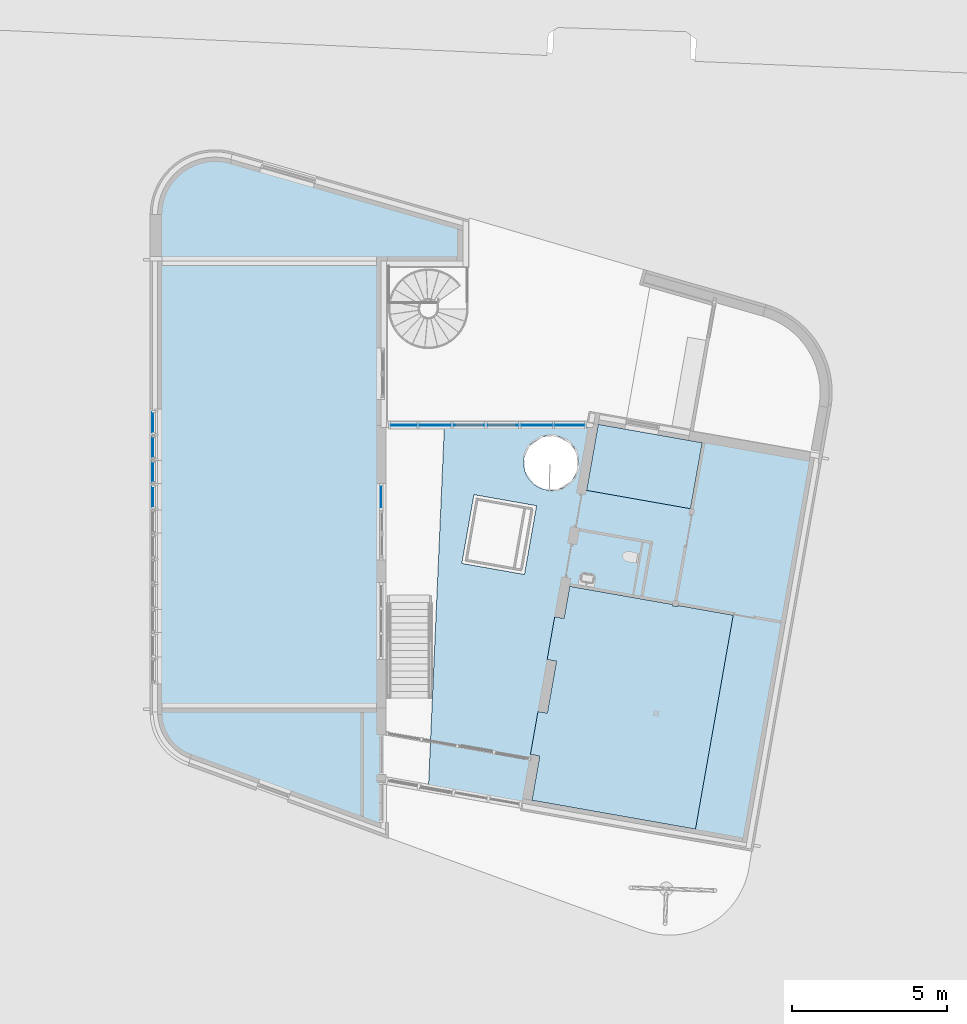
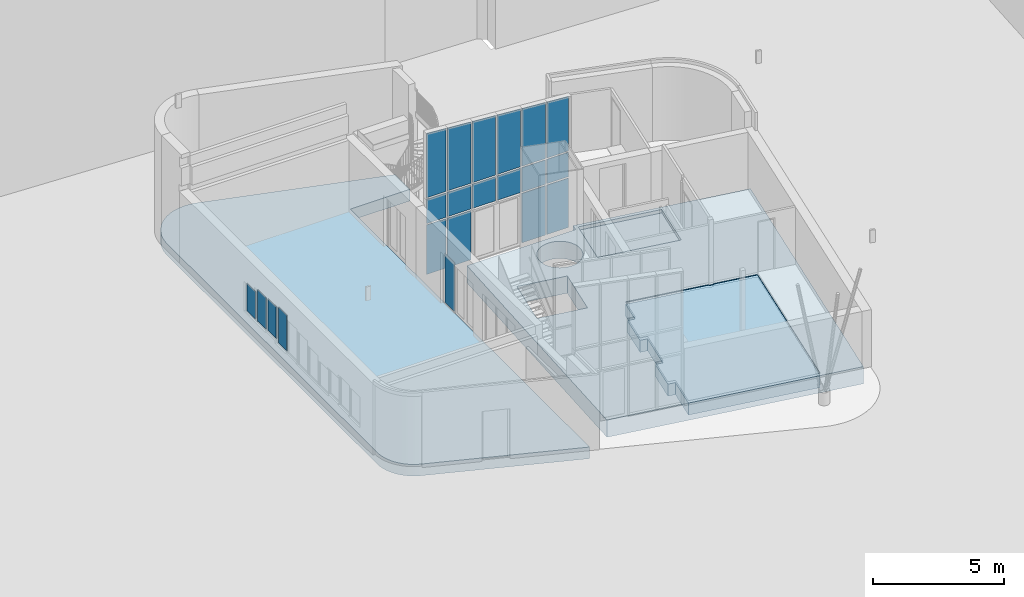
# One storey, part 10 of 21: 21 plates, 5 slabs, 6 elements without a shape of their own.
"""IFC2X3 building model written with IfcOpenShell, lengths in millimetres."""

from ifc_helpers import new_model, entity, si_unit, converted_unit, derived_unit, direction, frame, frame_2d, origin, origin_2d_with_axis, place, context, subcontext, project, spatial, polyline, circle_curve, parameter, trimmed, segment, composite_curve, rectangle, outline, extrude, source, transform, mapped, material, layer, layer_set, layer_usage, type_object, type_shapes, element, aggregate, save


model = new_model("IFC2X3")

# Units and contexts
model_context = context("Model", 3, precision=0.01, world=origin(), true_north=direction((6.12303176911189e-17, 1.0)))
body_context = subcontext(model_context, "Body", "Model", "MODEL_VIEW")
ifc_project = project(units=[si_unit("LENGTHUNIT", "METRE", prefix="MILLI"), si_unit("AREAUNIT", "SQUARE_METRE"), si_unit("VOLUMEUNIT", "CUBIC_METRE"), converted_unit("PLANEANGLEUNIT", "DEGREE", entity("IfcRatioMeasure", 0.0174532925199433), si_unit("PLANEANGLEUNIT", "RADIAN"), dimensions=[0, 0, 0, 0, 0, 0, 0]), si_unit("MASSUNIT", "GRAM", prefix="KILO"), derived_unit("MASSDENSITYUNIT", [(si_unit("MASSUNIT", "GRAM", prefix="KILO"), 1), (si_unit("LENGTHUNIT", "METRE"), -3)]), derived_unit("MOMENTOFINERTIAUNIT", [(si_unit("LENGTHUNIT", "METRE"), 4)]), si_unit("TIMEUNIT", "SECOND"), si_unit("FREQUENCYUNIT", "HERTZ"), si_unit("THERMODYNAMICTEMPERATUREUNIT", "DEGREE_CELSIUS"), derived_unit("THERMALTRANSMITTANCEUNIT", [(si_unit("MASSUNIT", "GRAM", prefix="KILO"), 1), (si_unit("THERMODYNAMICTEMPERATUREUNIT", "KELVIN"), -1), (si_unit("TIMEUNIT", "SECOND"), -3)]), derived_unit("VOLUMETRICFLOWRATEUNIT", [(si_unit("LENGTHUNIT", "METRE"), 3), (si_unit("TIMEUNIT", "SECOND"), -1)]), si_unit("ELECTRICCURRENTUNIT", "AMPERE"), si_unit("ELECTRICVOLTAGEUNIT", "VOLT"), si_unit("POWERUNIT", "WATT"), si_unit("FORCEUNIT", "NEWTON", prefix="KILO"), si_unit("ILLUMINANCEUNIT", "LUX"), si_unit("LUMINOUSFLUXUNIT", "LUMEN"), si_unit("LUMINOUSINTENSITYUNIT", "CANDELA"), derived_unit("USERDEFINED", [(si_unit("MASSUNIT", "GRAM", prefix="KILO"), -1), (si_unit("LENGTHUNIT", "METRE"), -2), (si_unit("TIMEUNIT", "SECOND"), 3), (si_unit("LUMINOUSFLUXUNIT", "LUMEN"), 1)]), derived_unit("LINEARVELOCITYUNIT", [(si_unit("LENGTHUNIT", "METRE"), 1), (si_unit("TIMEUNIT", "SECOND"), -1)]), si_unit("PRESSUREUNIT", "PASCAL"), derived_unit("USERDEFINED", [(si_unit("LENGTHUNIT", "METRE"), -2), (si_unit("MASSUNIT", "GRAM", prefix="KILO"), 1), (si_unit("TIMEUNIT", "SECOND"), -2)]), derived_unit("LINEARFORCEUNIT", [(si_unit("MASSUNIT", "GRAM", prefix="KILO"), 1), (si_unit("LENGTHUNIT", "METRE"), 1), (si_unit("TIMEUNIT", "SECOND"), -2), (si_unit("LENGTHUNIT", "METRE"), -1)]), derived_unit("PLANARFORCEUNIT", [(si_unit("MASSUNIT", "GRAM", prefix="KILO"), 1), (si_unit("LENGTHUNIT", "METRE"), 1), (si_unit("TIMEUNIT", "SECOND"), -2), (si_unit("LENGTHUNIT", "METRE"), -2)])], contexts=[model_context])

# Site, building, storey
site_placement = place(None, origin())
site = spatial("IfcSite", under=ifc_project, at=site_placement, Name="<Kadaster Gemeente>;<Kadaster nummer>;<Kadaster sectie>", CompositionType="ELEMENT")
building_placement = place(site_placement, origin())
building = spatial("IfcBuilding", under=site, at=building_placement, Name="JRCZ Middelburg", CompositionType="ELEMENT")
storey_placement = place(building_placement, origin())
storey = spatial("IfcBuildingStorey", under=building, at=storey_placement, Name="00 begane grond", CompositionType="ELEMENT", Elevation=0.0)

# Slab
ifc_material_1 = material(Name="vloerafwerking pvc")
ifc_layer_1 = layer(ifc_material_1, 10.0)
ifc_material_2 = material(Name="RBM_f2_beton_ihwg_gen")
ifc_layer_2 = layer(ifc_material_2, 60.0)
ifc_material_3 = material(Name="RBM_f2_beton_ihwg C20-25")
ifc_layer_3 = layer(ifc_material_3, 70.0)
ifc_material_4 = material(Name="RBM_f2_beton_prefab_gen")
ifc_layer_4 = layer(ifc_material_4, 260.0)
ifc_material_5 = material(Name="RBM_n7_isolatie_EPS")
ifc_layer_5 = layer(ifc_material_5, 140.0)
ifc_layer_set_1 = layer_set([ifc_layer_1, ifc_layer_2, ifc_layer_3, ifc_layer_4, ifc_layer_5], Name="Floor:RBM_23_FL_kanaalplaat-260mm+druklaag-80mm")
ifc_layer_usage_1 = layer_usage(ifc_layer_set_1, "AXIS3", "POSITIVE", 0.0)
slab_type_1 = type_object("IfcSlabType", Name="Floor:RBM_23_FL_kanaalplaat-260mm+druklaag-80mm", PredefinedType="FLOOR", material=ifc_layer_set_1)
slab_1_placement = place(storey_placement, origin())
element("IfcSlab", 1, at=slab_1_placement, inside=storey, type_object=slab_type_1, material=ifc_layer_usage_1, Name="Floor:RBM_23_FL_kanaalplaat-260mm+druklaag-80mm", ObjectType="Floor:RBM_23_FL_kanaalplaat-260mm+druklaag-80mm", PredefinedType="FLOOR", context=body_context, shape_type="SweptSolid", body=[
    extrude(outline(composite_curve([segment(polyline([(-9163.03599612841, -4692.08567273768), (6866.79513431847, -4692.08567273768)]), True, "CONTINUOUS"), segment(trimmed(circle_curve(frame_2d((6866.79513431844, -2841.86703616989), x_axis=(0.0, -1.0)), 1850.21863656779), [parameter(0.0)], [parameter(106.993525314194)], True, "PARAMETER"), True, "CONTINUOUS"), segment(polyline([(8636.22913475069, -2301.11540998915), (6499.21252313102, 5151.54718810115)]), True, "CONTINUOUS"), segment(polyline([(6499.21252313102, 5151.54718810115), (5366.68254016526, 5151.54718810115)]), True, "CONTINUOUS"), segment(polyline([(5366.68254016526, 5151.54718810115), (5366.68254016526, 2507.91432726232)]), True, "CONTINUOUS"), segment(polyline([(5366.68254016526, 2507.91432726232), (-12903.9537439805, 2507.91432726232)]), True, "CONTINUOUS"), segment(polyline([(-12903.9537439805, 2507.91432726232), (-10668.6121324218, -3633.63627526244)]), True, "CONTINUOUS"), segment(trimmed(circle_curve(frame_2d((-9156.97341980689, -3083.44477890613), x_axis=(-0.939692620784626, -0.342020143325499)), 1608.65231797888), [parameter(0.0)], [parameter(69.7840671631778)], True, "PARAMETER"), True, "CONTINUOUS")], self_intersect=False)), frame((14692.0856727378, 19030.3174598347, 0.0), z_axis=(0.0, 0.0, -1.0), x_axis=(0.0, 1.0, 0.0)), (0.0, 0.0, 1.0), 540.0),
])

# Curtain wall, plate
curtain_wall_type_1 = type_object("IfcCurtainWallType", Name="Curtain Wall:NLRS_32_CW_067x114", PredefinedType="NOTDEFINED")
curtain_wall_1_placement = place(storey_placement, origin())
curtain_wall_1 = element("IfcCurtainWall", 2, at=curtain_wall_1_placement, inside=storey, type_object=curtain_wall_type_1, Name="Curtain Wall:NLRS_32_CW_067x114", ObjectType="Curtain Wall:NLRS_32_CW_067x114")
ifc_material_6 = material(Name="o1_glas")
plate_type_1 = type_object("IfcPlateType", Name="System Panel:32_CWP_glas", PredefinedType="CURTAIN_PANEL", material=ifc_material_6)
shared_shape_1 = source(origin(), body_context, "Body", "SweptSolid", [
    extrude(rectangle(XDim=24.0, YDim=732.999999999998, at=origin_2d_with_axis()), frame((0.0, 0.0, 0.0), z_axis=(0.0, 0.0, 1.0), x_axis=(0.0, 1.0, 0.0)), (0.0, 0.0, 1.0), 2266.0),
])
type_shapes(plate_type_1, [shared_shape_1])
plate_1_placement = place(curtain_wall_1_placement, frame((17203.0, 16800.0, 67.0), z_axis=(0.0, 0.0, 1.0), x_axis=(0.0, 1.0, 0.0)))
plate_1 = element("IfcPlate", 3, at=plate_1_placement, type_object=plate_type_1, material=ifc_material_6, Name="System Panel:32_CWP_glas", ObjectType="System Panel:32_CWP_glas", context=body_context, shape_type="MappedRepresentation", body=[
    mapped(shared_shape_1, transform((0.0, 0.0, 0.0), scale=1.0)),
])
aggregate(curtain_wall_1, [plate_1])

# Slab
ifc_material_7 = material(Name="RBM_n7_isolatie_hsb_245")
ifc_layer_6 = layer(ifc_material_7, 800.0)
ifc_layer_set_2 = layer_set([ifc_layer_6], Name="Floor:RBM_23_FL_tempex 800mm")
ifc_layer_usage_2 = layer_usage(ifc_layer_set_2, "AXIS3", "POSITIVE", 0.0)
slab_type_2 = type_object("IfcSlabType", Name="Floor:RBM_23_FL_tempex 800mm", PredefinedType="FLOOR", material=ifc_layer_set_2)
slab_2_placement = place(storey_placement, origin())
element("IfcSlab", 4, at=slab_2_placement, inside=storey, type_object=slab_type_2, material=ifc_layer_usage_2, Name="Floor:RBM_23_FL_tempex 800mm", ObjectType="Floor:RBM_23_FL_tempex 800mm", PredefinedType="FLOOR", context=body_context, shape_type="SweptSolid", body=[
    extrude(outline(polyline([(-6129.68782683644, -3800.38848279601), (51.9972370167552, -3800.38848279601), (1070.31217316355, -3800.38848279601), (1070.31217316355, -3514.8124808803), (5786.36511298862, -2683.24510513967), (4280.38895734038, 8799.61151720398), (-6129.68782683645, 8799.61151720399), (-6129.68782683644, -3800.38848279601)]), holes=[composite_curve([segment(trimmed(circle_curve(frame_2d((2203.40442670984, -2163.56349931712), x_axis=(-0.989825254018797, -0.142288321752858)), 879.999999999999), [parameter(171.831648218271)], [parameter(258.280481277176)], True, "PARAMETER"), False, "CONTINUOUS"), segment(trimmed(circle_curve(frame_2d((2203.40442670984, -2163.56349931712), x_axis=(-0.989825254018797, -0.142288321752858)), 880.0), [parameter(258.280481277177)], [parameter(171.831648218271)], True, "PARAMETER"), False, "CONTINUOUS")], self_intersect=False), polyline([(-4429.68782683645, 1649.611517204), (-4429.68782683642, 8649.61151720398), (920.312173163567, 8649.61151720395), (920.312173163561, 7199.61151720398), (1226.31217316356, 7199.61151720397), (1226.31217316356, 5799.61151720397), (920.312173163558, 5799.61151720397), (920.312173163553, 4099.61151720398), (1226.31217316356, 4099.61151720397), (1226.31217316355, 2699.61151720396), (920.312173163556, 2699.61151720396), (920.312173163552, 1649.61151720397), (-2443.68782683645, 1649.61151720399), (-2443.68782683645, 1689.61151720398), (-2623.68782683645, 1689.61151720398), (-2623.68782683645, 1649.61151720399), (-4429.68782683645, 1649.611517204)]), polyline([(4472.52751639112, 1525.90874953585), (4472.52751639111, -724.091250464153), (2422.52751639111, -724.091250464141), (2422.52751639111, 1525.90874953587), (4472.52751639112, 1525.90874953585)]), polyline([(51.9972370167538, -3650.38848279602), (-1032.00276298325, -3650.38848279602), (-2479.68782683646, -3650.38848279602), (-2479.68782683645, -1490.38848279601), (920.312173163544, -1490.38848279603), (920.312173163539, -3650.38848279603), (51.9972370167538, -3650.38848279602)])]), frame((24473.5238007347, 15380.3510479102, -890.0), z_axis=(0.0, 0.0, 1.0), x_axis=(-0.984807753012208, 0.173648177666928, 0.0)), (0.0, 0.0, 1.0), 800.0),
])

# Curtain wall, plate
curtain_wall_type_2 = type_object("IfcCurtainWallType", Name="Curtain Wall:NLRS_31_CW_Ontwerpkozijn 067x114 2", PredefinedType="NOTDEFINED")
curtain_wall_2_placement = place(storey_placement, origin())
curtain_wall_2 = element("IfcCurtainWall", 5, at=curtain_wall_2_placement, inside=storey, type_object=curtain_wall_type_2, Name="Curtain Wall:NLRS_31_CW_Ontwerpkozijn 067x114 2", ObjectType="Curtain Wall:NLRS_31_CW_Ontwerpkozijn 067x114 2")
plate_type_2 = type_object("IfcPlateType", Name="System Panel:31_CWP_glas_2", PredefinedType="CURTAIN_PANEL", material=ifc_material_6)
shared_shape_2 = source(origin(), body_context, "Body", "SweptSolid", [
    extrude(rectangle(XDim=24.0, YDim=640.999999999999, at=frame_2d((-7.99360577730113e-15, 0.0), x_axis=(1.0, 0.0))), frame((0.0, -85.0, 0.0), z_axis=(0.0, 0.0, 1.0), x_axis=(0.0, 1.0, 0.0)), (0.0, 0.0, 1.0), 1266.0),
])
type_shapes(plate_type_2, [shared_shape_2])
plate_2_placement = place(curtain_wall_2_placement, frame((9931.0, 19200.0, 817.0), z_axis=(0.0, 0.0, 1.0), x_axis=(0.0, -1.0, 0.0)))
plate_2 = element("IfcPlate", 6, at=plate_2_placement, type_object=plate_type_2, material=ifc_material_6, Name="System Panel:31_CWP_glas_2", ObjectType="System Panel:31_CWP_glas_2", context=body_context, shape_type="MappedRepresentation", body=[
    mapped(shared_shape_2, transform((0.0, 0.0, 0.0), scale=1.0)),
])
aggregate(curtain_wall_2, [plate_2])

# Curtain wall, plates
curtain_wall_type_3 = type_object("IfcCurtainWallType", Name="Curtain Wall:Vliesgevel C", PredefinedType="NOTDEFINED")
curtain_wall_3_placement = place(storey_placement, origin())
curtain_wall_3 = element("IfcCurtainWall", 7, at=curtain_wall_3_placement, inside=storey, type_object=curtain_wall_type_3, Name="Curtain Wall:Vliesgevel C", ObjectType="Curtain Wall:Vliesgevel C")
plate_type_3 = type_object("IfcPlateType", Name="System Panel:31_CWP_glas_1", PredefinedType="CURTAIN_PANEL", material=ifc_material_6)
shared_shape_3 = source(origin(), body_context, "Body", "SweptSolid", [
    extrude(rectangle(XDim=24.0, YDim=845.987756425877, at=frame_2d((-4.44089209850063e-15, 0.0), x_axis=(1.0, 0.0))), frame((0.0, 57.0, 0.0), z_axis=(0.0, 0.0, 1.0), x_axis=(0.0, 1.0, 0.0)), (0.0, 0.0, 1.0), 2299.5),
])
type_shapes(plate_type_3, [shared_shape_3])
plate_3_placement = place(curtain_wall_3_placement, frame((17929.9357567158, 19046.62338787, 67.0)))
plate_3 = element("IfcPlate", 8, at=plate_3_placement, type_object=plate_type_3, material=ifc_material_6, Name="System Panel:31_CWP_glas_1", ObjectType="System Panel:31_CWP_glas_1", context=body_context, shape_type="MappedRepresentation", body=[
    mapped(shared_shape_3, transform((0.0, 0.0, 0.0), scale=1.0)),
])
plate_type_4 = type_object("IfcPlateType", Name="System Panel:31_CWP_glas_1", PredefinedType="CURTAIN_PANEL", material=ifc_material_6)
shared_shape_4 = source(origin(), body_context, "Body", "SweptSolid", [
    extrude(rectangle(XDim=24.0, YDim=1027.72709861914, at=frame_2d((-4.44089209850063e-15, -5.6843418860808e-14), x_axis=(1.0, 0.0))), frame((0.0, 57.0, 0.0), z_axis=(0.0, 0.0, 1.0), x_axis=(0.0, 1.0, 0.0)), (0.0, 0.0, 1.0), 2299.5),
])
type_shapes(plate_type_4, [shared_shape_4])
plate_4_placement = place(curtain_wall_3_placement, frame((18933.7931842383, 19046.62338787, 67.0)))
plate_4 = element("IfcPlate", 9, at=plate_4_placement, type_object=plate_type_4, material=ifc_material_6, Name="System Panel:31_CWP_glas_1", ObjectType="System Panel:31_CWP_glas_1", context=body_context, shape_type="MappedRepresentation", body=[
    mapped(shared_shape_4, transform((0.0, 0.0, 0.0), scale=1.0)),
])
plate_5_placement = place(curtain_wall_3_placement, frame((22217.9744800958, 19046.62338787, 67.0)))
plate_5 = element("IfcPlate", 10, at=plate_5_placement, type_object=plate_type_4, material=ifc_material_6, Name="System Panel:31_CWP_glas_1", ObjectType="System Panel:31_CWP_glas_1", context=body_context, shape_type="MappedRepresentation", body=[
    mapped(shared_shape_4, transform((0.0, 0.0, 0.0), scale=1.0)),
])
plate_type_5 = type_object("IfcPlateType", Name="System Panel:31_CWP_glas_1", PredefinedType="CURTAIN_PANEL", material=ifc_material_6)
shared_shape_5 = source(origin(), body_context, "Body", "SweptSolid", [
    extrude(rectangle(XDim=24.0, YDim=959.103849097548, at=frame_2d((-4.44089209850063e-15, 0.0), x_axis=(1.0, 0.0))), frame((0.0, 57.0, 0.0), z_axis=(0.0, 0.0, 1.0), x_axis=(0.0, 1.0, 0.0)), (0.0, 0.0, 1.0), 2299.5),
])
type_shapes(plate_type_5, [shared_shape_5])
plate_6_placement = place(curtain_wall_3_placement, frame((23278.3899539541, 19046.62338787, 67.0)))
plate_6 = element("IfcPlate", 11, at=plate_6_placement, type_object=plate_type_5, material=ifc_material_6, Name="System Panel:31_CWP_glas_1", ObjectType="System Panel:31_CWP_glas_1", context=body_context, shape_type="MappedRepresentation", body=[
    mapped(shared_shape_5, transform((0.0, 0.0, 0.0), scale=1.0)),
])
plate_type_6 = type_object("IfcPlateType", Name="System Panel:31_CWP_glas_1", PredefinedType="CURTAIN_PANEL", material=ifc_material_6)
shared_shape_6 = source(origin(), body_context, "Body", "SweptSolid", [
    extrude(rectangle(XDim=24.0, YDim=845.987756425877, at=frame_2d((-4.44089209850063e-15, 0.0), x_axis=(1.0, 0.0))), frame((0.0, 57.0, 0.0), z_axis=(0.0, 0.0, 1.0), x_axis=(0.0, 1.0, 0.0)), (0.0, 0.0, 1.0), 1133.0),
])
type_shapes(plate_type_6, [shared_shape_6])
plate_7_placement = place(curtain_wall_3_placement, frame((17929.9357567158, 19046.62338787, 2433.5)))
plate_7 = element("IfcPlate", 12, at=plate_7_placement, type_object=plate_type_6, material=ifc_material_6, Name="System Panel:31_CWP_glas_1", ObjectType="System Panel:31_CWP_glas_1", context=body_context, shape_type="MappedRepresentation", body=[
    mapped(shared_shape_6, transform((0.0, 0.0, 0.0), scale=1.0)),
])
plate_type_7 = type_object("IfcPlateType", Name="System Panel:31_CWP_glas_1", PredefinedType="CURTAIN_PANEL", material=ifc_material_6)
shared_shape_7 = source(origin(), body_context, "Body", "SweptSolid", [
    extrude(rectangle(XDim=24.0, YDim=1027.72709861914, at=frame_2d((-4.44089209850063e-15, -1.13686837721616e-13), x_axis=(1.0, 0.0))), frame((0.0, 57.0, 0.0), z_axis=(0.0, 0.0, 1.0), x_axis=(0.0, 1.0, 0.0)), (0.0, 0.0, 1.0), 1133.0),
])
type_shapes(plate_type_7, [shared_shape_7])
plate_8_placement = place(curtain_wall_3_placement, frame((18933.7931842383, 19046.62338787, 2433.5)))
plate_8 = element("IfcPlate", 13, at=plate_8_placement, type_object=plate_type_7, material=ifc_material_6, Name="System Panel:31_CWP_glas_1", ObjectType="System Panel:31_CWP_glas_1", context=body_context, shape_type="MappedRepresentation", body=[
    mapped(shared_shape_7, transform((0.0, 0.0, 0.0), scale=1.0)),
])
plate_9_placement = place(curtain_wall_3_placement, frame((20028.5202828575, 19046.62338787, 2433.5)))
plate_9 = element("IfcPlate", 14, at=plate_9_placement, type_object=plate_type_7, material=ifc_material_6, Name="System Panel:31_CWP_glas_1", ObjectType="System Panel:31_CWP_glas_1", context=body_context, shape_type="MappedRepresentation", body=[
    mapped(shared_shape_7, transform((0.0, 0.0, 0.0), scale=1.0)),
])
plate_10_placement = place(curtain_wall_3_placement, frame((21123.2473814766, 19046.62338787, 2433.5)))
plate_10 = element("IfcPlate", 15, at=plate_10_placement, type_object=plate_type_7, material=ifc_material_6, Name="System Panel:31_CWP_glas_1", ObjectType="System Panel:31_CWP_glas_1", context=body_context, shape_type="MappedRepresentation", body=[
    mapped(shared_shape_7, transform((0.0, 0.0, 0.0), scale=1.0)),
])
plate_11_placement = place(curtain_wall_3_placement, frame((22217.9744800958, 19046.62338787, 2433.5)))
plate_11 = element("IfcPlate", 16, at=plate_11_placement, type_object=plate_type_7, material=ifc_material_6, Name="System Panel:31_CWP_glas_1", ObjectType="System Panel:31_CWP_glas_1", context=body_context, shape_type="MappedRepresentation", body=[
    mapped(shared_shape_7, transform((0.0, 0.0, 0.0), scale=1.0)),
])
plate_type_8 = type_object("IfcPlateType", Name="System Panel:31_CWP_glas_1", PredefinedType="CURTAIN_PANEL", material=ifc_material_6)
shared_shape_8 = source(origin(), body_context, "Body", "SweptSolid", [
    extrude(rectangle(XDim=24.0, YDim=959.103849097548, at=frame_2d((-4.44089209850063e-15, 0.0), x_axis=(1.0, 0.0))), frame((0.0, 57.0, 0.0), z_axis=(0.0, 0.0, 1.0), x_axis=(0.0, 1.0, 0.0)), (0.0, 0.0, 1.0), 1133.0),
])
type_shapes(plate_type_8, [shared_shape_8])
plate_12_placement = place(curtain_wall_3_placement, frame((23278.3899539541, 19046.62338787, 2433.5)))
plate_12 = element("IfcPlate", 17, at=plate_12_placement, type_object=plate_type_8, material=ifc_material_6, Name="System Panel:31_CWP_glas_1", ObjectType="System Panel:31_CWP_glas_1", context=body_context, shape_type="MappedRepresentation", body=[
    mapped(shared_shape_8, transform((0.0, 0.0, 0.0), scale=1.0)),
])
plate_type_9 = type_object("IfcPlateType", Name="System Panel:31_CWP_glas_1", PredefinedType="CURTAIN_PANEL", material=ifc_material_6)
shared_shape_9 = source(origin(), body_context, "Body", "SweptSolid", [
    extrude(outline(polyline([(-1484.97450968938, -422.993878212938), (1516.21708349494, -422.993878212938), (1453.73193588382, 422.993878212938), (-1484.97450968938, 422.993878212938), (-1484.97450968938, -422.993878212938)])), frame((0.0, 45.0, 1484.97450968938), z_axis=(0.0, 1.0, 0.0), x_axis=(0.0, 0.0, 1.0)), (0.0, 0.0, 1.0), 24.0),
])
type_shapes(plate_type_9, [shared_shape_9])
plate_13_placement = place(curtain_wall_3_placement, frame((17929.9357567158, 19046.62338787, 3633.5)))
plate_13 = element("IfcPlate", 18, at=plate_13_placement, type_object=plate_type_9, material=ifc_material_6, Name="System Panel:31_CWP_glas_1", ObjectType="System Panel:31_CWP_glas_1", context=body_context, shape_type="MappedRepresentation", body=[
    mapped(shared_shape_9, transform((0.0, 0.0, 0.0), scale=1.0)),
])
plate_type_10 = type_object("IfcPlateType", Name="System Panel:31_CWP_glas_1", PredefinedType="CURTAIN_PANEL", material=ifc_material_6)
shared_shape_10 = source(origin(), body_context, "Body", "SweptSolid", [
    extrude(outline(polyline([(-1447.90176303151, -513.86354930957), (1485.85602358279, -513.86354930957), (1409.94750248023, 513.86354930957), (-1447.90176303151, 513.86354930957), (-1447.90176303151, -513.86354930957)])), frame((0.0, 45.0, 1447.90176303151), z_axis=(0.0, 1.0, 0.0), x_axis=(0.0, 0.0, 1.0)), (0.0, 0.0, 1.0), 24.0),
])
type_shapes(plate_type_10, [shared_shape_10])
plate_14_placement = place(curtain_wall_3_placement, frame((18933.7931842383, 19046.62338787, 3633.5)))
plate_14 = element("IfcPlate", 19, at=plate_14_placement, type_object=plate_type_10, material=ifc_material_6, Name="System Panel:31_CWP_glas_1", ObjectType="System Panel:31_CWP_glas_1", context=body_context, shape_type="MappedRepresentation", body=[
    mapped(shared_shape_10, transform((0.0, 0.0, 0.0), scale=1.0)),
])
plate_type_11 = type_object("IfcPlateType", Name="System Panel:31_CWP_glas_1", PredefinedType="CURTAIN_PANEL", material=ifc_material_6)
shared_shape_11 = source(origin(), body_context, "Body", "SweptSolid", [
    extrude(outline(polyline([(-1407.47317300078, -513.86354930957), (1445.42743355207, -513.86354930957), (1369.5189124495, 513.86354930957), (-1407.47317300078, 513.86354930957), (-1407.47317300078, -513.86354930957)])), frame((0.0, 45.0, 1407.47317300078), z_axis=(0.0, 1.0, 0.0), x_axis=(0.0, 0.0, 1.0)), (0.0, 0.0, 1.0), 24.0),
])
type_shapes(plate_type_11, [shared_shape_11])
plate_15_placement = place(curtain_wall_3_placement, frame((20028.5202828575, 19046.62338787, 3633.5)))
plate_15 = element("IfcPlate", 20, at=plate_15_placement, type_object=plate_type_11, material=ifc_material_6, Name="System Panel:31_CWP_glas_1", ObjectType="System Panel:31_CWP_glas_1", context=body_context, shape_type="MappedRepresentation", body=[
    mapped(shared_shape_11, transform((0.0, 0.0, 0.0), scale=1.0)),
])
plate_type_12 = type_object("IfcPlateType", Name="System Panel:31_CWP_glas_1", PredefinedType="CURTAIN_PANEL", material=ifc_material_6)
shared_shape_12 = source(origin(), body_context, "Body", "SweptSolid", [
    extrude(outline(polyline([(-1367.04458297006, -513.86354930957), (1404.99884352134, -513.86354930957), (1329.09032241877, 513.86354930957), (-1367.04458297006, 513.86354930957), (-1367.04458297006, -513.86354930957)])), frame((0.0, 45.0, 1367.04458297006), z_axis=(0.0, 1.0, 0.0), x_axis=(0.0, 0.0, 1.0)), (0.0, 0.0, 1.0), 24.0),
])
type_shapes(plate_type_12, [shared_shape_12])
plate_16_placement = place(curtain_wall_3_placement, frame((21123.2473814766, 19046.62338787, 3633.5)))
plate_16 = element("IfcPlate", 21, at=plate_16_placement, type_object=plate_type_12, material=ifc_material_6, Name="System Panel:31_CWP_glas_1", ObjectType="System Panel:31_CWP_glas_1", context=body_context, shape_type="MappedRepresentation", body=[
    mapped(shared_shape_12, transform((0.0, 0.0, 0.0), scale=1.0)),
])
plate_type_13 = type_object("IfcPlateType", Name="System Panel:31_CWP_glas_1", PredefinedType="CURTAIN_PANEL", material=ifc_material_6)
shared_shape_13 = source(origin(), body_context, "Body", "SweptSolid", [
    extrude(outline(polyline([(-1326.61599293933, -513.863549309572), (1364.57025349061, -513.863549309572), (1288.66173238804, 513.863549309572), (-1326.61599293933, 513.863549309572), (-1326.61599293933, -513.863549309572)])), frame((0.0, 45.0, 1326.61599293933), z_axis=(0.0, 1.0, 0.0), x_axis=(0.0, 0.0, 1.0)), (0.0, 0.0, 1.0), 24.0),
])
type_shapes(plate_type_13, [shared_shape_13])
plate_17_placement = place(curtain_wall_3_placement, frame((22217.9744800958, 19046.62338787, 3633.5)))
plate_17 = element("IfcPlate", 22, at=plate_17_placement, type_object=plate_type_13, material=ifc_material_6, Name="System Panel:31_CWP_glas_1", ObjectType="System Panel:31_CWP_glas_1", context=body_context, shape_type="MappedRepresentation", body=[
    mapped(shared_shape_13, transform((0.0, 0.0, 0.0), scale=1.0)),
])
plate_type_14 = type_object("IfcPlateType", Name="System Panel:31_CWP_glas_1", PredefinedType="CURTAIN_PANEL", material=ifc_material_6)
shared_shape_14 = source(origin(), body_context, "Body", "SweptSolid", [
    extrude(outline(polyline([(-1287.45454118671, -479.551924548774), (1322.87452518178, -479.551924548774), (1252.03455719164, 479.551924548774), (-1287.45454118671, 479.551924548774), (-1287.45454118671, -479.551924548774)])), frame((0.0, 45.0, 1287.45454118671), z_axis=(0.0, 1.0, 0.0), x_axis=(0.0, 0.0, 1.0)), (0.0, 0.0, 1.0), 24.0),
])
type_shapes(plate_type_14, [shared_shape_14])
plate_18_placement = place(curtain_wall_3_placement, frame((23278.3899539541, 19046.62338787, 3633.5)))
plate_18 = element("IfcPlate", 23, at=plate_18_placement, type_object=plate_type_14, material=ifc_material_6, Name="System Panel:31_CWP_glas_1", ObjectType="System Panel:31_CWP_glas_1", context=body_context, shape_type="MappedRepresentation", body=[
    mapped(shared_shape_14, transform((0.0, 0.0, 0.0), scale=1.0)),
])
aggregate(curtain_wall_3, [plate_3, plate_4, plate_5, plate_6, plate_7, plate_8, plate_9, plate_10, plate_11, plate_12, plate_13, plate_14, plate_15, plate_16, plate_17, plate_18])

# Curtain wall, plate
curtain_wall_4_placement = place(storey_placement, origin())
curtain_wall_4 = element("IfcCurtainWall", 24, at=curtain_wall_4_placement, inside=storey, type_object=curtain_wall_type_2, Name="Curtain Wall:NLRS_31_CW_Ontwerpkozijn 067x114 2", ObjectType="Curtain Wall:NLRS_31_CW_Ontwerpkozijn 067x114 2")
plate_type_15 = type_object("IfcPlateType", Name="System Panel:31_CWP_glas_2", PredefinedType="CURTAIN_PANEL", material=ifc_material_6)
shared_shape_15 = source(origin(), body_context, "Body", "SweptSolid", [
    extrude(rectangle(XDim=24.0, YDim=640.999999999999, at=frame_2d((-7.99360577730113e-15, 0.0), x_axis=(1.0, 0.0))), frame((0.0, -85.0, 0.0), z_axis=(0.0, 0.0, 1.0), x_axis=(0.0, 1.0, 0.0)), (0.0, 0.0, 1.0), 1466.0),
])
type_shapes(plate_type_15, [shared_shape_15])
plate_19_placement = place(curtain_wall_4_placement, frame((9931.0, 18400.0, 817.0), z_axis=(0.0, 0.0, 1.0), x_axis=(0.0, -1.0, 0.0)))
plate_19 = element("IfcPlate", 25, at=plate_19_placement, type_object=plate_type_15, material=ifc_material_6, Name="System Panel:31_CWP_glas_2", ObjectType="System Panel:31_CWP_glas_2", context=body_context, shape_type="MappedRepresentation", body=[
    mapped(shared_shape_15, transform((0.0, 0.0, 0.0), scale=1.0)),
])
aggregate(curtain_wall_4, [plate_19])

curtain_wall_5_placement = place(storey_placement, origin())
curtain_wall_5 = element("IfcCurtainWall", 26, at=curtain_wall_5_placement, inside=storey, type_object=curtain_wall_type_2, Name="Curtain Wall:NLRS_31_CW_Ontwerpkozijn 067x114 2", ObjectType="Curtain Wall:NLRS_31_CW_Ontwerpkozijn 067x114 2")
plate_20_placement = place(curtain_wall_5_placement, frame((9931.0, 17600.0, 867.0), z_axis=(0.0, 0.0, 1.0), x_axis=(0.0, -1.0, 0.0)))
plate_20 = element("IfcPlate", 27, at=plate_20_placement, type_object=plate_type_15, material=ifc_material_6, Name="System Panel:31_CWP_glas_2", ObjectType="System Panel:31_CWP_glas_2", context=body_context, shape_type="MappedRepresentation", body=[
    mapped(shared_shape_15, transform((0.0, 0.0, 0.0), scale=1.0)),
])
aggregate(curtain_wall_5, [plate_20])

curtain_wall_6_placement = place(storey_placement, origin())
curtain_wall_6 = element("IfcCurtainWall", 28, at=curtain_wall_6_placement, inside=storey, type_object=curtain_wall_type_2, Name="Curtain Wall:NLRS_31_CW_Ontwerpkozijn 067x114 2", ObjectType="Curtain Wall:NLRS_31_CW_Ontwerpkozijn 067x114 2")
plate_type_16 = type_object("IfcPlateType", Name="System Panel:31_CWP_glas_2", PredefinedType="CURTAIN_PANEL", material=ifc_material_6)
shared_shape_16 = source(origin(), body_context, "Body", "SweptSolid", [
    extrude(rectangle(XDim=24.0, YDim=640.999999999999, at=frame_2d((-7.99360577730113e-15, 0.0), x_axis=(1.0, 0.0))), frame((0.0, -85.0, 0.0), z_axis=(0.0, 0.0, 1.0), x_axis=(0.0, 1.0, 0.0)), (0.0, 0.0, 1.0), 1666.0),
])
type_shapes(plate_type_16, [shared_shape_16])
plate_21_placement = place(curtain_wall_6_placement, frame((9931.0, 16800.0, 767.0), z_axis=(0.0, 0.0, 1.0), x_axis=(0.0, -1.0, 0.0)))
plate_21 = element("IfcPlate", 29, at=plate_21_placement, type_object=plate_type_16, material=ifc_material_6, Name="System Panel:31_CWP_glas_2", ObjectType="System Panel:31_CWP_glas_2", context=body_context, shape_type="MappedRepresentation", body=[
    mapped(shared_shape_16, transform((0.0, 0.0, 0.0), scale=1.0)),
])
aggregate(curtain_wall_6, [plate_21])

# Slabs
ifc_layer_7 = layer(ifc_material_1, 10.0)
ifc_layer_8 = layer(ifc_material_3, 80.0)
ifc_layer_set_3 = layer_set([ifc_layer_7, ifc_layer_8], Name="Floor:RBM_23_FL_gewapende druklaag gevlinderd")
ifc_layer_usage_3 = layer_usage(ifc_layer_set_3, "AXIS3", "POSITIVE", 0.0)
slab_type_3 = type_object("IfcSlabType", Name="Floor:RBM_23_FL_gewapende druklaag gevlinderd", PredefinedType="FLOOR", material=ifc_layer_set_3)
slab_3_placement = place(storey_placement, origin())
element("IfcSlab", 30, at=slab_3_placement, inside=storey, type_object=slab_type_3, material=ifc_layer_usage_3, Name="Floor:RBM_23_FL_gewapende druklaag gevlinderd", ObjectType="Floor:RBM_23_FL_gewapende druklaag gevlinderd", PredefinedType="FLOOR", context=body_context, shape_type="SweptSolid", body=[
    extrude(outline(polyline([(-2530.0, -3894.25), (4470.0, -3894.25), (4470.0, 1455.74999999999), (3020.0, 1455.74999999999), (3020.0, 1761.75), (1620.0, 1761.75), (1620.0, 1455.75), (-80.0, 1455.75), (-80.0, 1761.75), (-1480.0, 1761.75), (-1480.0, 1455.75), (-2530.0, 1455.75), (-2530.0, -1908.25), (-2490.0, -1908.25), (-2490.0, -2088.25), (-2530.0, -2088.25), (-2530.0, -3894.25)])), frame((24275.0452005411, 11171.2594183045, -120.0), z_axis=(0.0, 0.0, -1.0), x_axis=(-0.173648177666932, -0.984807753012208, 0.0)), (0.0, 0.0, 1.0), 90.0),
])
ifc_layer_9 = layer(ifc_material_7, 560.0)
ifc_layer_set_4 = layer_set([ifc_layer_9], Name="Floor:RBM_23_FL_tempex 690mm")
ifc_layer_usage_4 = layer_usage(ifc_layer_set_4, "AXIS3", "POSITIVE", 0.0)
slab_type_4 = type_object("IfcSlabType", Name="Floor:RBM_23_FL_tempex 690mm", PredefinedType="FLOOR", material=ifc_layer_set_4)
slab_4_placement = place(storey_placement, origin())
element("IfcSlab", 31, at=slab_4_placement, inside=storey, type_object=slab_type_4, material=ifc_layer_usage_4, Name="Floor:RBM_23_FL_tempex 690mm", ObjectType="Floor:RBM_23_FL_tempex 690mm", PredefinedType="FLOOR", context=body_context, shape_type="SweptSolid", body=[
    extrude(outline(polyline([(-2530.0, -3894.24999999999), (4470.0, -3894.24999999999), (4470.0, 1455.75), (3020.0, 1455.75), (3020.0, 1761.75), (1620.0, 1761.75), (1620.0, 1455.75), (-80.0, 1455.75), (-80.0, 1761.75), (-1480.0, 1761.75), (-1480.0, 1455.75000000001), (-2530.0, 1455.75000000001), (-2530.0, -1908.25), (-2490.0, -1908.25), (-2490.0, -2088.25), (-2530.0, -2088.25), (-2530.0, -3894.24999999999)])), frame((24275.0452005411, 11171.2594183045, -200.0), z_axis=(0.0, 0.0, -1.0), x_axis=(-0.173648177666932, -0.984807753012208, 0.0)), (0.0, 0.0, 1.0), 560.0),
])
ifc_layer_usage_5 = layer_usage(ifc_layer_set_3, "AXIS3", "POSITIVE", 0.0)
slab_type_5 = type_object("IfcSlabType", Name="Floor:RBM_23_FL_gewapende druklaag gevlinderd", PredefinedType="FLOOR", material=ifc_layer_set_3)
slab_5_placement = place(storey_placement, origin())
element("IfcSlab", 32, at=slab_5_placement, inside=storey, type_object=slab_type_5, material=ifc_layer_usage_5, Name="Floor:RBM_23_FL_gewapende druklaag gevlinderd", ObjectType="Floor:RBM_23_FL_gewapende druklaag gevlinderd", PredefinedType="FLOOR", context=body_context, shape_type="SweptSolid", body=[
    extrude(rectangle(XDim=2160.00000000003, YDim=3400.0, at=frame_2d((-5.6843418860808e-12, -1.25055521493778e-12), x_axis=(1.0, 0.0))), frame((25687.7096934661, 17776.2981837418, -250.0), z_axis=(0.0, 0.0, -1.0), x_axis=(-0.173648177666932, -0.984807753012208, 0.0)), (0.0, 0.0, 1.0), 90.0),
])

save(model, "model.ifc")
